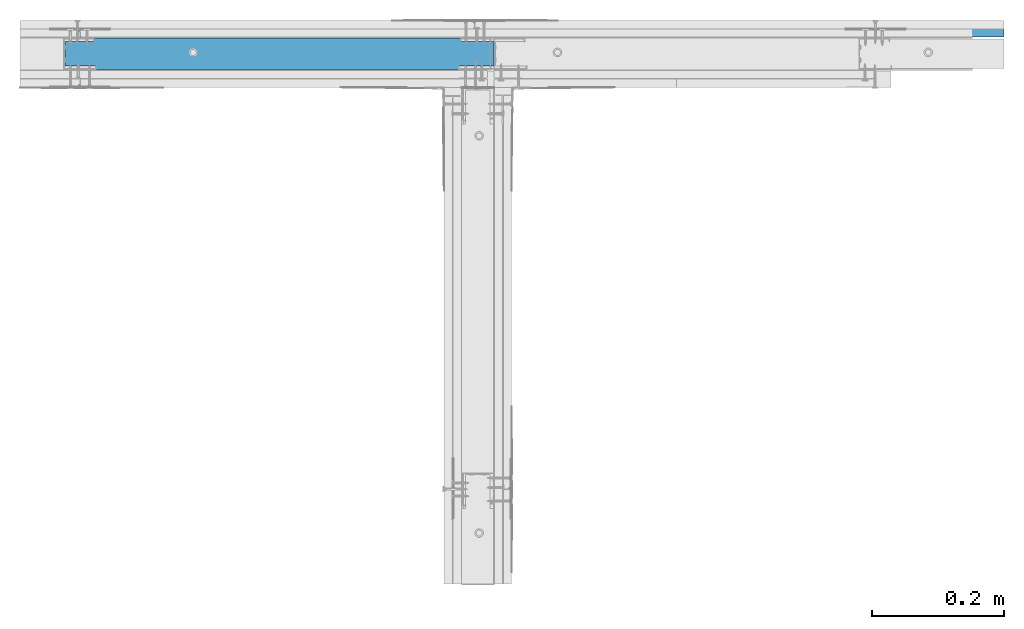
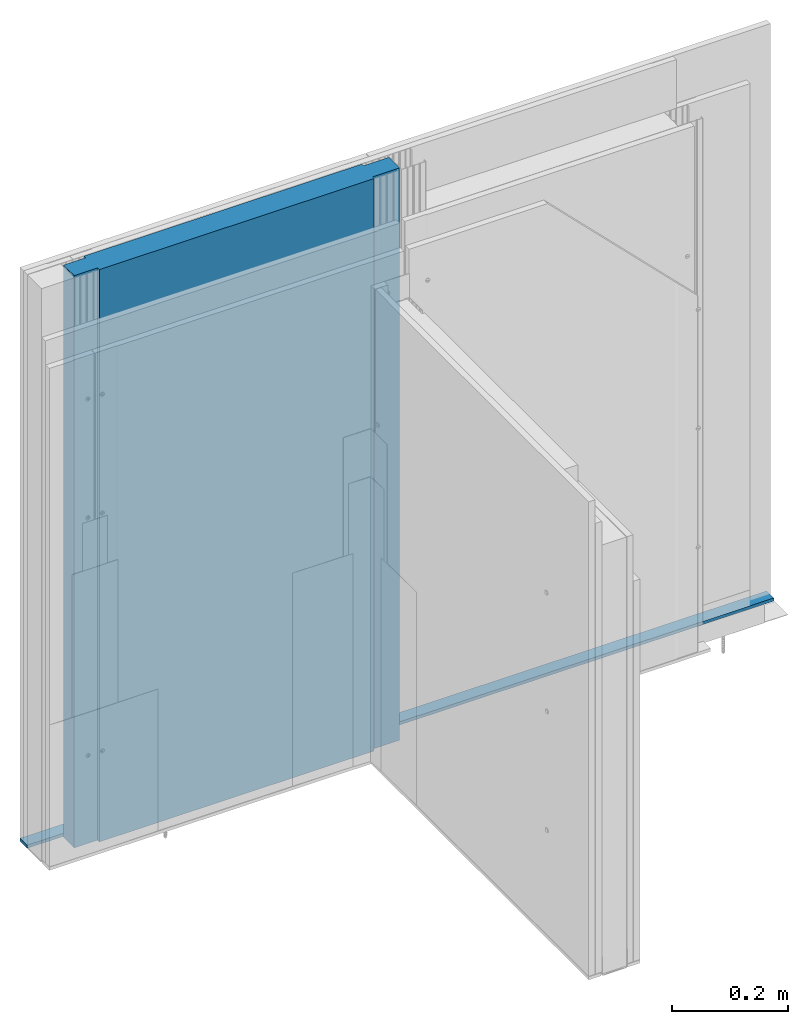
# One storey, part 2 of 95: 2 walls.
"""IFC2X3 building model written with IfcOpenShell, lengths in millimetres."""

from ifc_helpers import new_model, entity, si_unit, converted_unit, direction, frame, origin, origin_with_axes, place, context, project, spatial, faceted_brep, element, save


model = new_model("IFC2X3")

# Units and contexts
model_context = context("Model", 3, precision=1e-05, world=origin(), true_north=direction((0.0, 1.0, 0.0)))
ifc_project = project(units=[si_unit("LENGTHUNIT", "METRE", prefix="MILLI"), si_unit("AREAUNIT", "SQUARE_METRE"), si_unit("VOLUMEUNIT", "CUBIC_METRE"), converted_unit("PLANEANGLEUNIT", "DEGREE", entity("IfcPlaneAngleMeasure", 0.01745), si_unit("PLANEANGLEUNIT", "RADIAN"), dimensions=[0, 0, 0, 0, 0, 0, 0]), si_unit("SOLIDANGLEUNIT", "STERADIAN"), si_unit("MASSUNIT", "GRAM"), si_unit("TIMEUNIT", "SECOND"), si_unit("THERMODYNAMICTEMPERATUREUNIT", "DEGREE_CELSIUS"), si_unit("LUMINOUSINTENSITYUNIT", "LUMEN")], contexts=[model_context])

# Site, building, storey
site_placement = place(None, origin_with_axes())
site = spatial("IfcSite", under=ifc_project, at=site_placement, Name="Default Site", CompositionType="ELEMENT")
building_placement = place(site_placement, origin_with_axes())
building = spatial("IfcBuilding", under=site, at=building_placement, Name="Default Building", CompositionType="ELEMENT")
storey_placement = place(building_placement, origin_with_axes())
storey = spatial("IfcBuildingStorey", under=building, at=storey_placement, Name="Default Building Storey", CompositionType="ELEMENT", Elevation=0.0)

# Walls
wall_1_placement = place(storey_placement, frame((3611.155868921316, 2098.455598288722, 2.384025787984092), z_axis=(0.0, 0.0, 1.0), x_axis=(1.0, 0.0, 0.0)))
element("IfcWall", 1, at=wall_1_placement, inside=storey, Name="Dedykowana masa szpachlowa Rigips - konstrukcyjna", context=model_context, shape_type="Brep", body=[
    faceted_brep([(0.0, 24.6461696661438, 0.0), (0.0, 0.0, 0.0), (-1486.130735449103, 0.0, 0.0), (-1486.130735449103, 24.6461696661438, 0.0), (0.0, 0.0, 6.614392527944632), (-1486.130735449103, 0.0, 6.614392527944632), (0.0, 24.6461696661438, 6.614392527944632), (-1486.130735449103, 24.6461696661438, 6.614392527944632)], [[[0, 1, 2, 3]], [[1, 4, 5, 2]], [[4, 6, 7, 5]], [[6, 0, 3, 7]], [[7, 3, 2, 5]], [[0, 6, 4, 1]]]),
])
wall_2_placement = place(storey_placement, frame((2354.63066985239, 5528.384991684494, 108.8006114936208), z_axis=(0.0, 0.0, 1.0), x_axis=(1.0, 0.0, 0.0)))
element("IfcWall", 2, at=wall_2_placement, inside=storey, Name="Wełna mineralna szklana lub skalna ISOVER", context=model_context, shape_type="Brep", body=[
    faceted_brep([(432.4160232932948, -3479.633223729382, -103.0602162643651), (432.4160232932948, -3479.633223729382, 1101.19938850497), (432.4160232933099, -3473.633223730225, 1101.199388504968), (432.4160232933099, -3473.633223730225, -103.0602162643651), (486.440495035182, -3473.633223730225, 1101.199388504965), (486.4404950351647, -3473.633223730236, -103.0602162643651), (-114.6214102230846, -3479.633223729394, -103.0602162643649), (-114.6214102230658, -3479.633223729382, 1101.199388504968), (435.4160232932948, -3431.283223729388, 1101.199388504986), (435.4160232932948, -3431.283223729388, -103.0602162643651), (435.4160232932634, -3436.833223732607, -103.0602162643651), (435.4160232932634, -3436.833223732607, 1101.199388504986), (486.4404950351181, -3436.833223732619, -103.060216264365), (486.4404950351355, -3436.833223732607, 1101.199388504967), (-161.2958819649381, -3473.633223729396, -103.060216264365), (-161.2958819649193, -3473.633223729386, 1101.199388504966), (-114.6214102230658, -3473.633223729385, 1101.199388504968), (-114.6214102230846, -3473.633223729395, -103.0602162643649), (-161.2958819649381, -3436.833223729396, -103.060216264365), (-161.2958819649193, -3436.833223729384, 1101.199388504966), (-117.6214102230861, -3436.833223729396, -103.060216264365), (-117.6214102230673, -3436.833223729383, 1101.199388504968), (-117.6214102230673, -3431.283223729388, 1101.199388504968), (-117.6214102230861, -3431.283223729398, -103.0602162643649)], [[[0, 1, 2, 3]], [[2, 4, 5, 3]], [[0, 6, 7, 1]], [[8, 9, 10, 11]], [[10, 12, 13, 11]], [[14, 15, 16, 17]], [[17, 16, 7, 6]], [[15, 14, 18, 19]], [[19, 18, 20, 21]], [[8, 22, 23, 9]], [[21, 20, 23, 22]], [[17, 6, 0, 3, 5, 12, 10, 9, 23, 20, 18, 14]], [[1, 7, 16, 15, 19, 21, 22, 8, 11, 13, 4, 2]], [[4, 13, 12, 5]]]),
])

save(model, "model.ifc")
